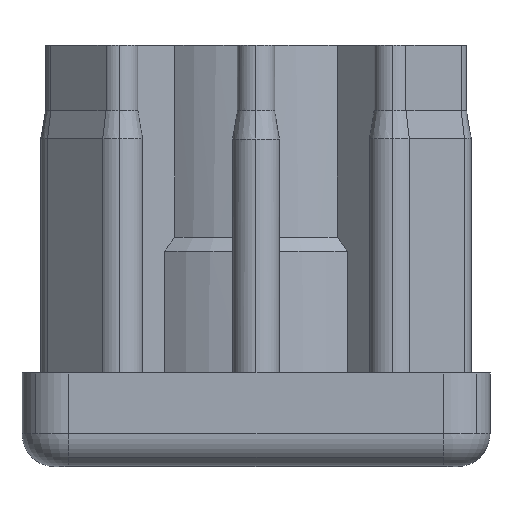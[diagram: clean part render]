
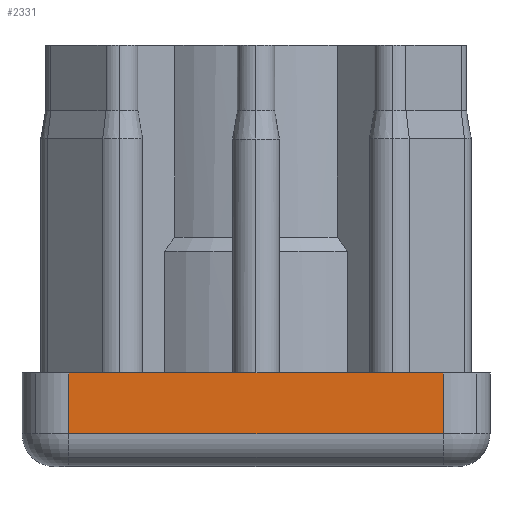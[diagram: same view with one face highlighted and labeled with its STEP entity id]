
A CAD part, left-side view. The second image highlights one B-rep face of the part: STEP entity #2331.
In plain terms, the highlighted planar face has unit normal (-1, 0, 0).
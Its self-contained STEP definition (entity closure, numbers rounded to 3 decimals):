
#94 = ORIENTED_EDGE ( 'NONE', *, *, #3601, .T. ) ;
#175 = FACE_OUTER_BOUND ( 'NONE', #2174, .T. ) ;
#692 = VECTOR ( 'NONE', #5667, 1000. ) ;
#906 = VECTOR ( 'NONE', #2206, 1000. ) ;
#1081 = LINE ( 'NONE', #4944, #906 ) ;
#1402 = DIRECTION ( 'NONE',  ( 1., 0., 0. ) ) ;
#1730 = DIRECTION ( 'NONE',  ( 0., 1., 0. ) ) ;
#1794 = ORIENTED_EDGE ( 'NONE', *, *, #1982, .F. ) ;
#1926 = DIRECTION ( 'NONE',  ( 0., 1., 0. ) ) ;
#1982 = EDGE_CURVE ( 'NONE', #3108, #5917, #6240, .T. ) ;
#2174 = EDGE_LOOP ( 'NONE', ( #4979, #1794, #94, #2479 ) ) ;
#2206 = DIRECTION ( 'NONE',  ( 0., 1., 0. ) ) ;
#2331 = ADVANCED_FACE ( 'NONE', ( #175 ), #4442, .F. ) ;
#2449 = CARTESIAN_POINT ( 'NONE',  ( -25., -20., -0.5 ) ) ;
#2463 = VERTEX_POINT ( 'NONE', #4705 ) ;
#2479 = ORIENTED_EDGE ( 'NONE', *, *, #5278, .F. ) ;
#2604 = CARTESIAN_POINT ( 'NONE',  ( -25., 20., -0.5 ) ) ;
#3108 = VERTEX_POINT ( 'NONE', #5795 ) ;
#3231 = LINE ( 'NONE', #3308, #5717 ) ;
#3308 = CARTESIAN_POINT ( 'NONE',  ( -25., 0., 9.5 ) ) ;
#3601 = EDGE_CURVE ( 'NONE', #3108, #6116, #3231, .T. ) ;
#3976 = CARTESIAN_POINT ( 'NONE',  ( -25., 20., 9.5 ) ) ;
#4226 = VECTOR ( 'NONE', #4267, 1000. ) ;
#4267 = DIRECTION ( 'NONE',  ( 0., 0., 1. ) ) ;
#4442 = PLANE ( 'NONE',  #5908 ) ;
#4705 = CARTESIAN_POINT ( 'NONE',  ( -25., 20., 3. ) ) ;
#4944 = CARTESIAN_POINT ( 'NONE',  ( -25., 0., 3. ) ) ;
#4979 = ORIENTED_EDGE ( 'NONE', *, *, #6011, .F. ) ;
#5278 = EDGE_CURVE ( 'NONE', #2463, #6116, #5715, .T. ) ;
#5667 = DIRECTION ( 'NONE',  ( 0., 0., -1. ) ) ;
#5715 = LINE ( 'NONE', #2604, #4226 ) ;
#5717 = VECTOR ( 'NONE', #1730, 1000. ) ;
#5795 = CARTESIAN_POINT ( 'NONE',  ( -25., -20., 9.5 ) ) ;
#5847 = CARTESIAN_POINT ( 'NONE',  ( -25., -20., 3. ) ) ;
#5908 = AXIS2_PLACEMENT_3D ( 'NONE', #6174, #1402, #1926 ) ;
#5917 = VERTEX_POINT ( 'NONE', #5847 ) ;
#6011 = EDGE_CURVE ( 'NONE', #5917, #2463, #1081, .T. ) ;
#6116 = VERTEX_POINT ( 'NONE', #3976 ) ;
#6174 = CARTESIAN_POINT ( 'NONE',  ( -25., -24.9, -0.5 ) ) ;
#6240 = LINE ( 'NONE', #2449, #692 ) ;
